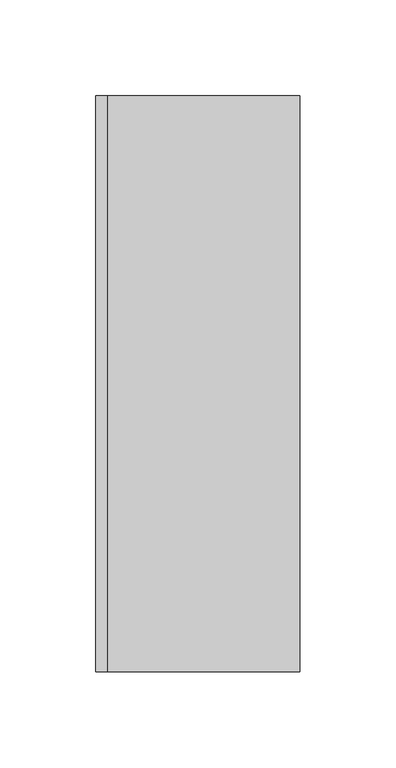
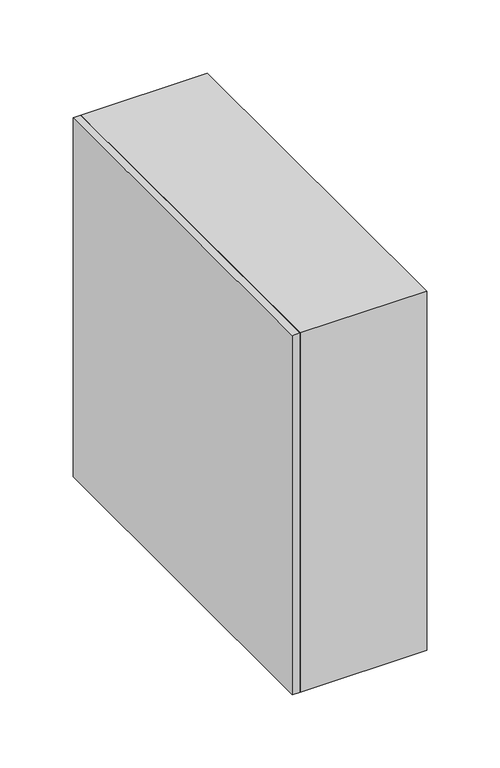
"""IFC4 building model written with IfcOpenShell, lengths in millimetres: duct fitting geometry, BL_ВрезкаВоздуховодов_Прямоугольная : BL_ВрезкаВоздуховодов_Прямоугольная."""

from ifc_helpers import new_model, si_unit, frame, origin, place, context, project, spatial, polyline, outline, extrude, source, transform, mapped, element, save


def duct_fitting_69ac1a23(model_context):
    return source(origin(), model_context, "Body", "SweptSolid", [
        extrude(outline(polyline([(100.0, -150.0), (0.0, -150.0), (0.0, 150.0), (100.0, 150.0), (100.0, -150.0)])), frame((0.0, 0.0, -150.0), z_axis=(0.0, 0.0, 1.0), x_axis=(1.0, 0.0, 0.0)), (0.0, 0.0, 1.0), 300.0),
        extrude(outline(polyline([(0.0, -150.0), (-6.096, -150.0), (-6.096, 150.0), (0.0, 150.0), (0.0, -150.0)])), frame((0.0, 0.0, -150.0), z_axis=(0.0, 0.0, 1.0), x_axis=(1.0, 0.0, 0.0)), (0.0, 0.0, 1.0), 300.0),
    ])


if __name__ == "__main__":
    model = new_model("IFC4")
    model_context = context("Model", 3, world=origin())
    ifc_project = project(units=[si_unit("LENGTHUNIT", "METRE", prefix="MILLI")], contexts=[model_context])
    site = spatial("IfcSite", under=ifc_project)
    building = spatial("IfcBuilding", under=site)
    placement = place(None, origin())
    duct_fitting_shape = duct_fitting_69ac1a23(model_context)
    element("IfcDuctFitting", 1, ObjectType="BL_ВрезкаВоздуховодов_Прямоугольная : BL_ВрезкаВоздуховодов_Прямоугольная", at=placement, inside=building, context=model_context, shape_type="MappedRepresentation", body=[
        mapped(duct_fitting_shape, transform((0.0, 0.0, 0.0), x_axis=(1.0, 0.0, 0.0), y_axis=(0.0, 1.0, 0.0), z_axis=(0.0, 0.0, 1.0))),
    ])
    save(model, "model.ifc")
